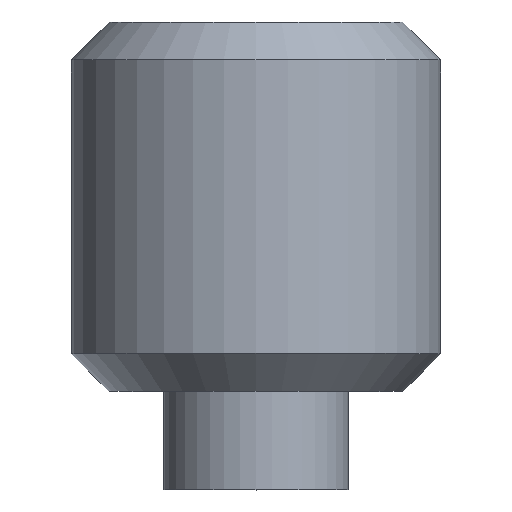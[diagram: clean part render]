
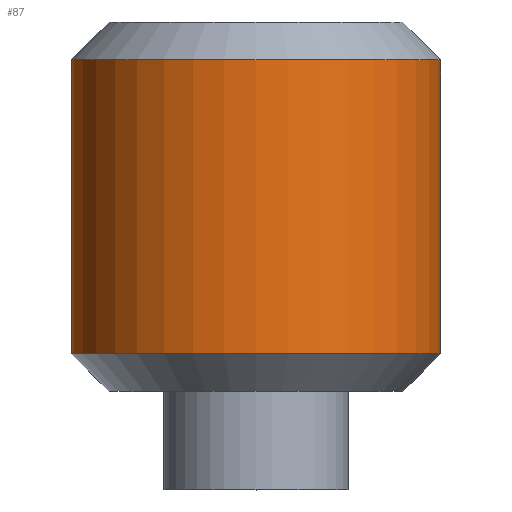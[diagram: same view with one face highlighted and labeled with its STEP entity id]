
A CAD part, top view. The second image highlights one B-rep face of the part: STEP entity #87.
In plain terms, the highlighted cylindrical face has radius 1.5 mm (diameter 3 mm), a full revolution.
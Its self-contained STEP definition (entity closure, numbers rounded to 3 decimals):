
#87 = ADVANCED_FACE( '', ( #118, #119 ), #120, .T. );
#118 = FACE_OUTER_BOUND( '', #152, .T. );
#119 = FACE_OUTER_BOUND( '', #153, .T. );
#120 = CYLINDRICAL_SURFACE( '', #154, 1.5 );
#152 = EDGE_LOOP( '', ( #238 ) );
#153 = EDGE_LOOP( '', ( #239 ) );
#154 = AXIS2_PLACEMENT_3D( '', #240, #241, #242 );
#238 = ORIENTED_EDGE( '', *, *, #270, .F. );
#239 = ORIENTED_EDGE( '', *, *, #271, .T. );
#240 = CARTESIAN_POINT( '', ( 0., 0., 0. ) );
#241 = DIRECTION( '', ( 0., 1., 0. ) );
#242 = DIRECTION( '', ( 0., 0., -1. ) );
#270 = EDGE_CURVE( '', #310, #310, #311, .T. );
#271 = EDGE_CURVE( '', #312, #312, #313, .T. );
#310 = VERTEX_POINT( '', #370 );
#311 = CIRCLE( '', #371, 1.5 );
#312 = VERTEX_POINT( '', #372 );
#313 = CIRCLE( '', #373, 1.5 );
#370 = CARTESIAN_POINT( '', ( 0., 1.107, -1.5 ) );
#371 = AXIS2_PLACEMENT_3D( '', #404, #405, #406 );
#372 = CARTESIAN_POINT( '', ( 0., 3.494, -1.5 ) );
#373 = AXIS2_PLACEMENT_3D( '', #407, #408, #409 );
#404 = CARTESIAN_POINT( '', ( 0., 1.107, 0. ) );
#405 = DIRECTION( '', ( 0., -1., 0. ) );
#406 = DIRECTION( '', ( 0., 0., -1. ) );
#407 = CARTESIAN_POINT( '', ( 0., 3.494, 0. ) );
#408 = DIRECTION( '', ( 0., -1., 0. ) );
#409 = DIRECTION( '', ( 0., 0., -1. ) );
